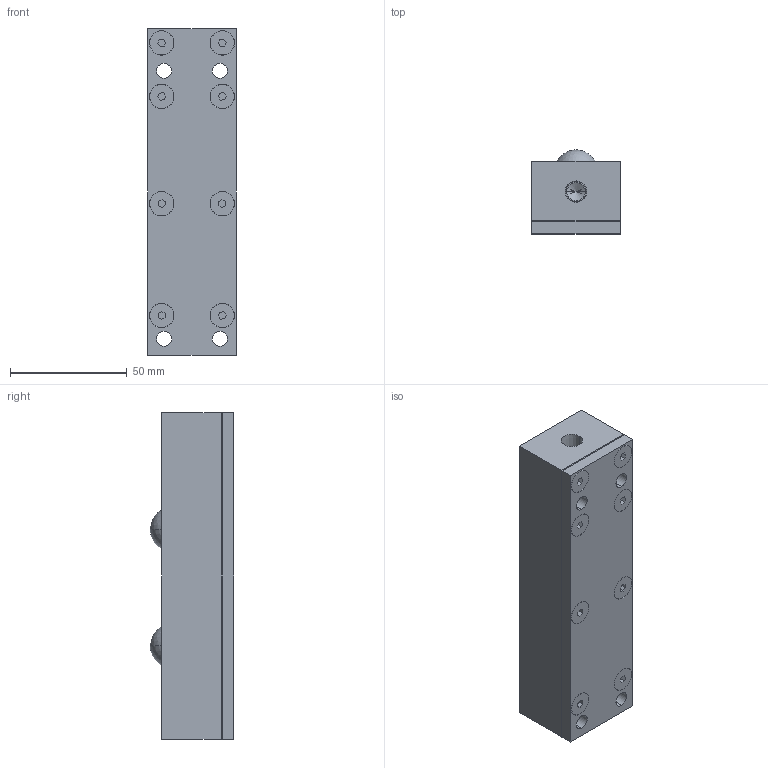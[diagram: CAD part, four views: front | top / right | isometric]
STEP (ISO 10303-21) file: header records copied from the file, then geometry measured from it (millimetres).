
FILE_DESCRIPTION (( 'STEP AP203' ), '1' );
FILE_NAME ('PVL30SL-2-P50.STEP', '2016-01-06T05:28:35', ( '' ), ( '' ), 'SwSTEP 2.0', 'SolidWorks 2013', '' );
FILE_SCHEMA (( 'CONFIG_CONTROL_DESIGN' ));
Length unit declared in the file: millimetre
Products named in the file (1): PVL30SL-2-P50
Bounding box: 38 x 36 x 140 mm (x, y, z)
Volume: 159050.7 mm3; surface area: 50060.5 mm2
Topology: 9 solids, 9 shells, 217 faces, 516 edges, 333 vertices
Faces by surface type: plane 99, cylinder 74, cone 40, sphere 4
Entity records: 6381 total; most frequent: DIRECTION 1146, CARTESIAN_POINT 1053, ORIENTED_EDGE 1004, EDGE_CURVE 502, AXIS2_PLACEMENT_3D 426, VERTEX_POINT 333, EDGE_LOOP 295, LINE 294
